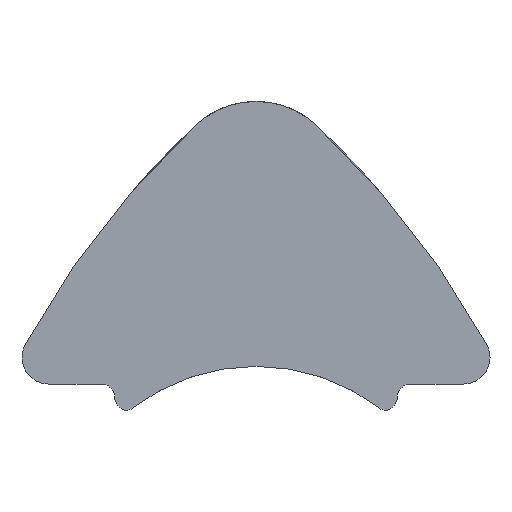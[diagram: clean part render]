
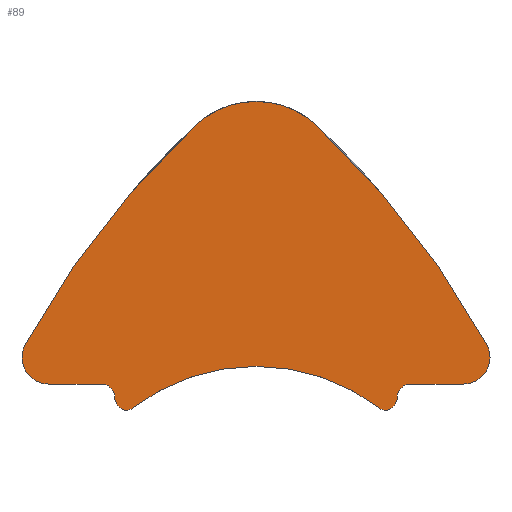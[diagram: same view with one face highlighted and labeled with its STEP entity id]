
A CAD part, front view. The second image highlights one B-rep face of the part: STEP entity #89.
In plain terms, the highlighted planar face has unit normal (0, -1, 0).
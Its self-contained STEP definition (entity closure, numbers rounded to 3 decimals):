
#89=ADVANCED_FACE('',(#172),#173,.F.);
#172=FACE_OUTER_BOUND('',#246,.T.);
#173=PLANE('',#247);
#246=EDGE_LOOP('',(#443,#444,#445,#446,#447,#448,#449,#450,#451,#452,#453,#454,#455,#456,#457,#458));
#247=AXIS2_PLACEMENT_3D('',#459,#460,#461);
#443=ORIENTED_EDGE('',*,*,#491,.T.);
#444=ORIENTED_EDGE('',*,*,#496,.F.);
#445=ORIENTED_EDGE('',*,*,#500,.F.);
#446=ORIENTED_EDGE('',*,*,#504,.T.);
#447=ORIENTED_EDGE('',*,*,#508,.T.);
#448=ORIENTED_EDGE('',*,*,#512,.F.);
#449=ORIENTED_EDGE('',*,*,#515,.F.);
#450=ORIENTED_EDGE('',*,*,#519,.F.);
#451=ORIENTED_EDGE('',*,*,#521,.F.);
#452=ORIENTED_EDGE('',*,*,#479,.F.);
#453=ORIENTED_EDGE('',*,*,#525,.F.);
#454=ORIENTED_EDGE('',*,*,#529,.T.);
#455=ORIENTED_EDGE('',*,*,#533,.T.);
#456=ORIENTED_EDGE('',*,*,#537,.F.);
#457=ORIENTED_EDGE('',*,*,#541,.F.);
#458=ORIENTED_EDGE('',*,*,#543,.T.);
#459=CARTESIAN_POINT('',(0.,-12.5,2.2));
#460=DIRECTION('',(-0.0,1.0,0.0));
#461=DIRECTION('',(1.0,0.0,0.0));
#479=EDGE_CURVE('',#573,#575,#576,.T.);
#491=EDGE_CURVE('',#593,#591,#594,.T.);
#496=EDGE_CURVE('',#599,#591,#601,.T.);
#500=EDGE_CURVE('',#605,#599,#607,.T.);
#504=EDGE_CURVE('',#605,#611,#613,.T.);
#508=EDGE_CURVE('',#611,#617,#619,.T.);
#512=EDGE_CURVE('',#623,#617,#625,.T.);
#515=EDGE_CURVE('',#627,#623,#629,.T.);
#519=EDGE_CURVE('',#632,#627,#634,.T.);
#521=EDGE_CURVE('',#575,#632,#636,.T.);
#525=EDGE_CURVE('',#640,#573,#642,.T.);
#529=EDGE_CURVE('',#640,#646,#648,.T.);
#533=EDGE_CURVE('',#646,#652,#654,.T.);
#537=EDGE_CURVE('',#658,#652,#660,.T.);
#541=EDGE_CURVE('',#664,#658,#666,.T.);
#543=EDGE_CURVE('',#664,#593,#668,.T.);
#573=VERTEX_POINT('',#862);
#575=VERTEX_POINT('',#865);
#576=CIRCLE('',#866,20.);
#591=VERTEX_POINT('',#885);
#593=VERTEX_POINT('',#888);
#594=CIRCLE('',#889,4.6);
#599=VERTEX_POINT('',#895);
#601=CIRCLE('',#898,0.3);
#605=VERTEX_POINT('',#902);
#607=CIRCLE('',#905,0.3);
#611=VERTEX_POINT('',#909);
#613=CIRCLE('',#912,0.3);
#617=VERTEX_POINT('',#917);
#619=LINE('',#920,#921);
#623=VERTEX_POINT('',#925);
#625=CIRCLE('',#928,0.6);
#627=VERTEX_POINT('',#930);
#629=CIRCLE('',#933,20.);
#632=VERTEX_POINT('',#936);
#634=CIRCLE('',#939,2.);
#636=CIRCLE('',#941,2.);
#640=VERTEX_POINT('',#945);
#642=CIRCLE('',#948,0.6);
#646=VERTEX_POINT('',#953);
#648=LINE('',#956,#957);
#652=VERTEX_POINT('',#961);
#654=CIRCLE('',#964,0.3);
#658=VERTEX_POINT('',#968);
#660=CIRCLE('',#971,0.3);
#664=VERTEX_POINT('',#975);
#666=CIRCLE('',#978,0.3);
#668=CIRCLE('',#980,4.6);
#862=CARTESIAN_POINT('',(-5.226,-12.5,0.889));
#865=CARTESIAN_POINT('',(-1.367,-12.5,5.86));
#866=AXIS2_PLACEMENT_3D('',#992,#993,#994);
#885=CARTESIAN_POINT('',(2.799,-12.5,-0.549));
#888=CARTESIAN_POINT('',(0.,-12.5,0.4));
#889=AXIS2_PLACEMENT_3D('',#1009,#1010,#1011);
#895=CARTESIAN_POINT('',(2.9,-12.5,-0.6));
#898=AXIS2_PLACEMENT_3D('',#1017,#1018,#1019);
#902=CARTESIAN_POINT('',(3.2,-12.5,-0.3));
#905=AXIS2_PLACEMENT_3D('',#1024,#1025,#1026);
#909=CARTESIAN_POINT('',(3.5,-12.5,0.));
#912=AXIS2_PLACEMENT_3D('',#1031,#1032,#1033);
#917=CARTESIAN_POINT('',(4.7,-12.5,0.));
#920=CARTESIAN_POINT('',(3.5,-12.5,0.));
#921=VECTOR('',#1036,1.0);
#925=CARTESIAN_POINT('',(5.226,-12.5,0.889));
#928=AXIS2_PLACEMENT_3D('',#1041,#1042,#1043);
#930=CARTESIAN_POINT('',(1.367,-12.5,5.86));
#933=AXIS2_PLACEMENT_3D('',#1045,#1046,#1047);
#936=CARTESIAN_POINT('',(0.,-12.5,6.4));
#939=AXIS2_PLACEMENT_3D('',#1052,#1053,#1054);
#941=AXIS2_PLACEMENT_3D('',#1055,#1056,#1057);
#945=CARTESIAN_POINT('',(-4.7,-12.5,0.));
#948=AXIS2_PLACEMENT_3D('',#1062,#1063,#1064);
#953=CARTESIAN_POINT('',(-3.5,-12.5,0.));
#956=CARTESIAN_POINT('',(-4.7,-12.5,0.));
#957=VECTOR('',#1067,1.0);
#961=CARTESIAN_POINT('',(-3.2,-12.5,-0.3));
#964=AXIS2_PLACEMENT_3D('',#1072,#1073,#1074);
#968=CARTESIAN_POINT('',(-2.9,-12.5,-0.6));
#971=AXIS2_PLACEMENT_3D('',#1079,#1080,#1081);
#975=CARTESIAN_POINT('',(-2.799,-12.5,-0.549));
#978=AXIS2_PLACEMENT_3D('',#1086,#1087,#1088);
#980=AXIS2_PLACEMENT_3D('',#1089,#1090,#1091);
#992=CARTESIAN_POINT('',(12.305,-12.5,-8.737));
#993=DIRECTION('',(0.0,1.0,0.0));
#994=DIRECTION('',(-0.877,0.0,0.481));
#1009=CARTESIAN_POINT('',(0.,-12.5,-4.2));
#1010=DIRECTION('',(0.0,1.0,0.0));
#1011=DIRECTION('',(0.,0.0,1.0));
#1017=CARTESIAN_POINT('',(2.981,-12.5,-0.311));
#1018=DIRECTION('',(0.0,1.0,0.0));
#1019=DIRECTION('',(-0.27,0.0,-0.963));
#1024=CARTESIAN_POINT('',(2.9,-12.5,-0.3));
#1025=DIRECTION('',(-0.0,1.0,0.0));
#1026=DIRECTION('',(1.0,0.0,0.));
#1031=CARTESIAN_POINT('',(3.5,-12.5,-0.3));
#1032=DIRECTION('',(0.0,1.0,0.0));
#1033=DIRECTION('',(-1.,0.0,0.));
#1036=DIRECTION('',(1.0,0.0,0.0));
#1041=CARTESIAN_POINT('',(4.7,-12.5,0.6));
#1042=DIRECTION('',(-0.0,1.0,0.0));
#1043=DIRECTION('',(0.877,0.0,0.481));
#1045=CARTESIAN_POINT('',(-12.305,-12.5,-8.737));
#1046=DIRECTION('',(-0.0,1.0,0.0));
#1047=DIRECTION('',(0.684,0.0,0.73));
#1052=CARTESIAN_POINT('',(0.,-12.5,4.4));
#1053=DIRECTION('',(-0.0,1.0,0.0));
#1054=DIRECTION('',(0.,0.0,1.0));
#1055=CARTESIAN_POINT('',(0.,-12.5,4.4));
#1056=DIRECTION('',(0.0,1.0,0.0));
#1057=DIRECTION('',(-0.684,0.0,0.73));
#1062=CARTESIAN_POINT('',(-4.7,-12.5,0.6));
#1063=DIRECTION('',(0.0,1.0,0.0));
#1064=DIRECTION('',(0.,0.0,-1.));
#1067=DIRECTION('',(1.0,0.0,0.0));
#1072=CARTESIAN_POINT('',(-3.5,-12.5,-0.3));
#1073=DIRECTION('',(-0.0,1.0,0.0));
#1074=DIRECTION('',(0.,0.0,1.));
#1079=CARTESIAN_POINT('',(-2.9,-12.5,-0.3));
#1080=DIRECTION('',(0.0,1.0,0.0));
#1081=DIRECTION('',(0.,0.0,-1.));
#1086=CARTESIAN_POINT('',(-2.981,-12.5,-0.311));
#1087=DIRECTION('',(0.0,1.0,0.0));
#1088=DIRECTION('',(0.608,0.0,-0.794));
#1089=CARTESIAN_POINT('',(0.,-12.5,-4.2));
#1090=DIRECTION('',(0.0,1.0,0.0));
#1091=DIRECTION('',(-0.608,0.0,0.794));
